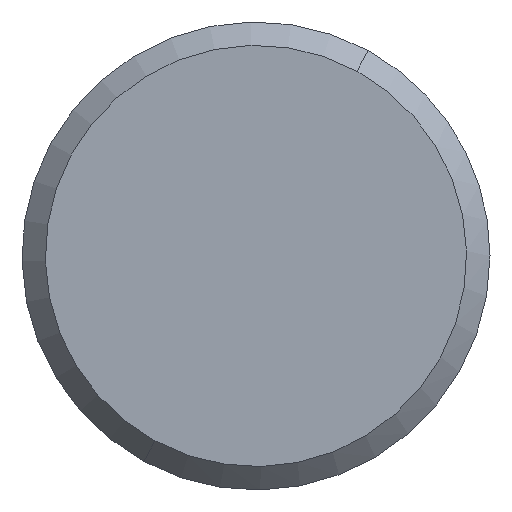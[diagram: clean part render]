
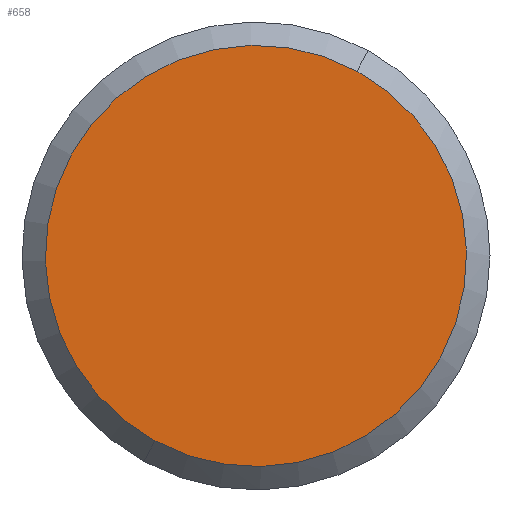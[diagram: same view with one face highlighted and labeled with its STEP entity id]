
A CAD part, front view. The second image highlights one B-rep face of the part: STEP entity #658.
In plain terms, the highlighted planar face has unit normal (0, -1, 0).
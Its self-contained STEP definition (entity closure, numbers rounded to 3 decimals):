
#21 = VERTEX_POINT ( 'NONE', #171 ) ;
#33 = DIRECTION ( 'NONE',  ( 0., 1., 0. ) ) ;
#97 = CARTESIAN_POINT ( 'NONE',  ( 0., -198.07, 0. ) ) ;
#171 = CARTESIAN_POINT ( 'NONE',  ( 3.452, -198.07, 6.319 ) ) ;
#208 = DIRECTION ( 'NONE',  ( 0., 1., 0. ) ) ;
#225 = FACE_OUTER_BOUND ( 'NONE', #697, .T. ) ;
#237 = ORIENTED_EDGE ( 'NONE', *, *, #459, .F. ) ;
#246 = CIRCLE ( 'NONE', #745, 7.2 ) ;
#309 = CARTESIAN_POINT ( 'NONE',  ( -3.452, -198.07, -6.319 ) ) ;
#319 = ORIENTED_EDGE ( 'NONE', *, *, #560, .F. ) ;
#324 = DIRECTION ( 'NONE',  ( 1., 0., 0. ) ) ;
#457 = PLANE ( 'NONE',  #611 ) ;
#459 = EDGE_CURVE ( 'NONE', #21, #511, #246, .T. ) ;
#511 = VERTEX_POINT ( 'NONE', #309 ) ;
#542 = AXIS2_PLACEMENT_3D ( 'NONE', #97, #673, #805 ) ;
#560 = EDGE_CURVE ( 'NONE', #511, #21, #877, .T. ) ;
#611 = AXIS2_PLACEMENT_3D ( 'NONE', #815, #33, #324 ) ;
#642 = CARTESIAN_POINT ( 'NONE',  ( 0., -198.07, 0. ) ) ;
#658 = ADVANCED_FACE ( 'NONE', ( #225 ), #457, .F. ) ;
#673 = DIRECTION ( 'NONE',  ( 0., 1., 0. ) ) ;
#697 = EDGE_LOOP ( 'NONE', ( #237, #319 ) ) ;
#745 = AXIS2_PLACEMENT_3D ( 'NONE', #642, #208, #845 ) ;
#805 = DIRECTION ( 'NONE',  ( 1., 0., 0. ) ) ;
#815 = CARTESIAN_POINT ( 'NONE',  ( 0., -198.07, 8. ) ) ;
#845 = DIRECTION ( 'NONE',  ( 1., 0., 0. ) ) ;
#877 = CIRCLE ( 'NONE', #542, 7.2 ) ;
